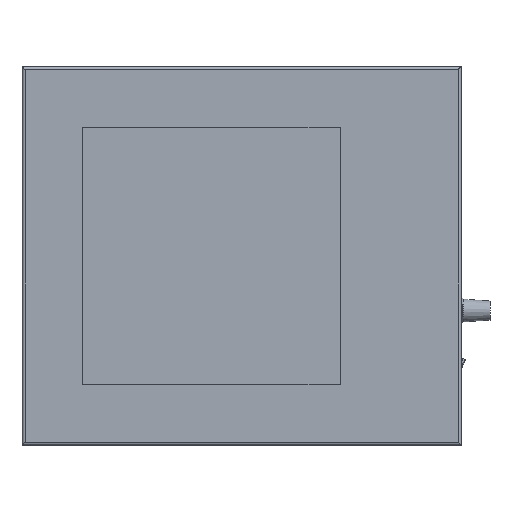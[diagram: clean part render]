
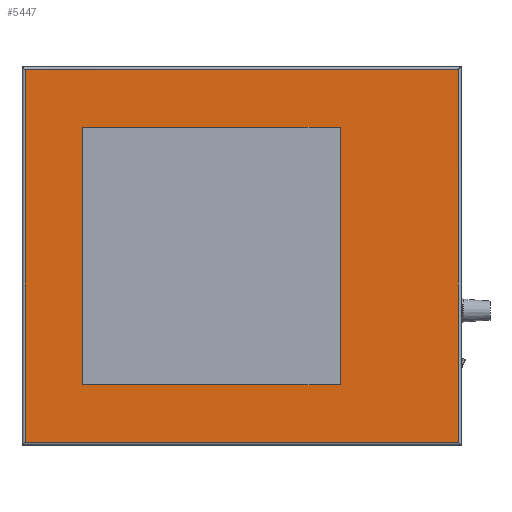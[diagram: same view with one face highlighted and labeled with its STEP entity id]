
A CAD part, top view. The second image highlights one B-rep face of the part: STEP entity #5447.
In plain terms, the highlighted planar face has unit normal (0, 0, 1).
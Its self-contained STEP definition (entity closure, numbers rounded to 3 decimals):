
#2523=ORIENTED_EDGE('',*,*,#3336,.T.);
#2524=ORIENTED_EDGE('',*,*,#3337,.T.);
#2525=ORIENTED_EDGE('',*,*,#3333,.T.);
#2526=ORIENTED_EDGE('',*,*,#3338,.T.);
#2527=ORIENTED_EDGE('',*,*,#3339,.F.);
#2528=ORIENTED_EDGE('',*,*,#3340,.F.);
#2529=ORIENTED_EDGE('',*,*,#3341,.F.);
#2530=ORIENTED_EDGE('',*,*,#3342,.F.);
#2947=VECTOR('',#3904,1.);
#2948=VECTOR('',#3911,1.);
#2949=VECTOR('',#3912,1.);
#2950=VECTOR('',#3913,1.);
#2951=VECTOR('',#3914,1.);
#2952=VECTOR('',#3915,1.);
#2953=VECTOR('',#3916,1.);
#2954=VECTOR('',#3917,1.);
#3058=LINE('',#4461,#2947);
#3059=LINE('',#4467,#2948);
#3060=LINE('',#4468,#2949);
#3061=LINE('',#4469,#2950);
#3062=LINE('',#4472,#2951);
#3063=LINE('',#4474,#2952);
#3064=LINE('',#4476,#2953);
#3065=LINE('',#4477,#2954);
#3171=VERTEX_POINT('',#4459);
#3172=VERTEX_POINT('',#4460);
#3173=VERTEX_POINT('',#4465);
#3174=VERTEX_POINT('',#4466);
#3175=VERTEX_POINT('',#4470);
#3176=VERTEX_POINT('',#4471);
#3177=VERTEX_POINT('',#4473);
#3178=VERTEX_POINT('',#4475);
#3333=EDGE_CURVE('',#3171,#3172,#3058,.T.);
#3336=EDGE_CURVE('',#3173,#3174,#3059,.T.);
#3337=EDGE_CURVE('',#3174,#3171,#3060,.T.);
#3338=EDGE_CURVE('',#3172,#3173,#3061,.T.);
#3339=EDGE_CURVE('',#3175,#3176,#3062,.T.);
#3340=EDGE_CURVE('',#3177,#3175,#3063,.T.);
#3341=EDGE_CURVE('',#3178,#3177,#3064,.T.);
#3342=EDGE_CURVE('',#3176,#3178,#3065,.T.);
#3540=EDGE_LOOP('',(#2523,#2524,#2525,#2526));
#3541=EDGE_LOOP('',(#2527,#2528,#2529,#2530));
#3703=FACE_BOUND('',#3540,.T.);
#3704=FACE_BOUND('',#3541,.T.);
#3904=DIRECTION('',(286.,0.,0.));
#3909=DIRECTION('',(0.,0.,1.));
#3910=DIRECTION('',(0.,-1.,0.));
#3911=DIRECTION('',(-286.,0.,0.));
#3912=DIRECTION('',(0.,-246.,0.));
#3913=DIRECTION('',(0.,246.,0.));
#3914=DIRECTION('',(170.,0.,0.));
#3915=DIRECTION('',(0.,-170.,0.));
#3916=DIRECTION('',(-170.,0.,0.));
#3917=DIRECTION('',(0.,170.,0.));
#4459=CARTESIAN_POINT('',(2.,2.,30.));
#4460=CARTESIAN_POINT('',(288.,2.,30.));
#4461=CARTESIAN_POINT('',(2.,2.,30.));
#4464=CARTESIAN_POINT('',(288.,248.,30.));
#4465=CARTESIAN_POINT('',(288.,248.,30.));
#4466=CARTESIAN_POINT('',(2.,248.,30.));
#4467=CARTESIAN_POINT('',(288.,248.,30.));
#4468=CARTESIAN_POINT('',(2.,248.,30.));
#4469=CARTESIAN_POINT('',(288.,2.,30.));
#4470=CARTESIAN_POINT('',(80.,40.,30.));
#4471=CARTESIAN_POINT('',(250.,40.,30.));
#4472=CARTESIAN_POINT('',(80.,40.,30.));
#4473=CARTESIAN_POINT('',(80.,210.,30.));
#4474=CARTESIAN_POINT('',(80.,210.,30.));
#4475=CARTESIAN_POINT('',(250.,210.,30.));
#4476=CARTESIAN_POINT('',(250.,210.,30.));
#4477=CARTESIAN_POINT('',(250.,40.,30.));
#5175=AXIS2_PLACEMENT_3D('',#4464,#3909,#3910);
#5383=PLANE('',#5175);
#5447=ADVANCED_FACE('',(#3703,#3704),#5383,.T.);
